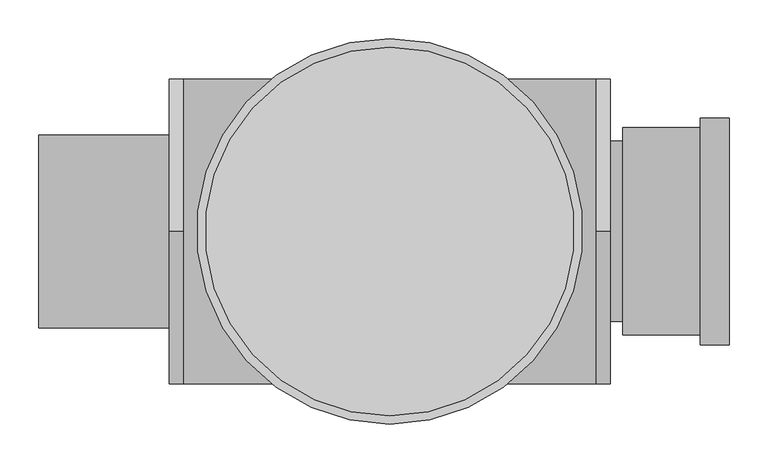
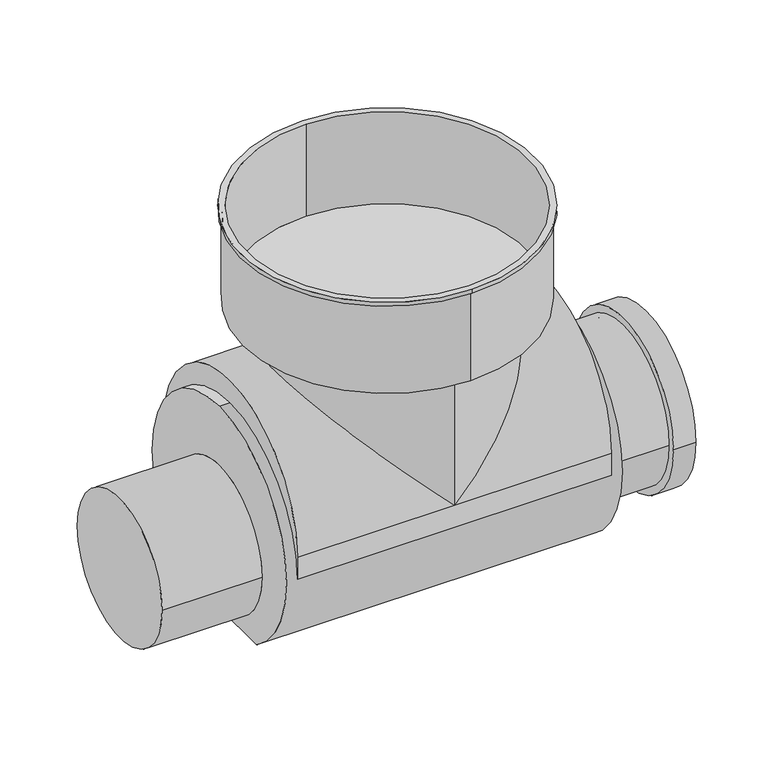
"""IFC4 building model written with IfcOpenShell, lengths in millimetres: valve geometry, Pipelife - Studnia PRO 425 - Kineta studni przelotowa GŁ 1M G1 : 425 p GŁ 250 1M G1."""

from ifc_helpers import new_model, si_unit, point, frame, frame_2d, origin, place, context, project, spatial, polyline, circle_curve, ellipse_curve, trimmed, segment, composite_curve, outline, extrude, source, transform, mapped, element, save
from ifc_brep_helpers import plane_surface, cylinder_surface, revolved_surface, advanced_brep


def valve_a0bac036(model_context):
    return source(origin(), model_context, "Body", "SolidModel", [
        extrude(outline(composite_curve([segment(trimmed(circle_curve(frame_2d((0.0, 3.0)), 147.0), [point((-147.0, 3.0))], [point((147.0, 3.0))], False, "CARTESIAN"), True, "CONTINUOUS"), segment(trimmed(circle_curve(frame_2d((0.0, 3.0)), 147.0), [point((147.0, 3.0))], [point((-147.0, 3.0))], False, "CARTESIAN"), True, "CONTINUOUS")], self_intersect=False), holes=[composite_curve([segment(trimmed(circle_curve(frame_2d((0.0, 3.0)), 126.5), [point((126.5, 3.0))], [point((-126.5, 3.0))], True, "CARTESIAN"), True, "CONTINUOUS"), segment(trimmed(circle_curve(frame_2d((0.0, 3.0)), 126.5), [point((-126.5, 3.0))], [point((126.5, 3.0))], True, "CARTESIAN"), True, "CONTINUOUS")], self_intersect=False)]), frame((402.0, 0.0, 0.0), z_axis=(1.0, 0.0, 0.0), x_axis=(0.0, 1.0, 0.0)), (0.0, 0.0, 1.0), 38.0),
        advanced_brep(
        [(0.0, 245.0, 487.0), (0.0, 245.0, 327.0), (0.0, -245.0, 327.0), (0.0, -245.0, 487.0), (0.0, 239.0, 329.0), (0.0, -239.0, 329.0), (0.0, 239.0, 494.0), (0.0, -239.0, 494.0), (0.0, 250.0, 494.0), (0.0, -250.0, 494.0), (0.0, 250.0, 487.0), (0.0, -250.0, 487.0), (0.0, -191.0, 322.0), (0.0, 191.0, 322.0), (0.0, 197.5, 322.0), (0.0, -197.5, 322.0), (0.0, 197.5, 74.5), (0.0, -197.5, 74.5), (-455.0, -125.0, 1.0), (-455.0, 125.0, 1.0), (-285.5, -125.0, 1.0), (-285.5, 125.0, 1.0), (302.0, -134.5, 3.0), (302.0, 134.5, 3.0), (302.0, 117.0, 3.0), (302.0, -117.0, 3.0), (402.0, -134.5, 3.0), (402.0, 134.5, 3.0), (402.0, -126.5, 3.0), (402.0, 126.5, 3.0), (309.0, -126.5, 3.0), (309.0, 126.5, 3.0), (285.5, -117.0, 3.0), (285.5, 117.0, 3.0), (-267.0, -197.5, 74.5), (-267.0, 197.5, 74.5), (-267.0, 197.5, 34.5), (-267.0, 0.0, 232.0), (-267.0, -197.5, 34.5), (267.0, -197.5, 74.5), (267.0, -197.5, 34.5), (267.0, 0.0, 232.0), (267.0, 197.5, 34.5), (267.0, 197.5, 74.5), (-285.5, -109.2977584, -130.0), (-285.5, 0.0, 232.0), (-285.5, 109.2977584, -130.0), (285.5, 109.2977584, -130.0), (285.5, 0.0, 232.0), (285.5, -109.2977584, -130.0)],
        [
            (0, 1),
            (1, 2, circle_curve(frame((0.0, 0.0, 327.0), z_axis=(0.0, 0.0, 1.0), x_axis=(0.0, -1.0, 0.0)), 245.0)),
            (2, 3),
            (3, 0, circle_curve(frame((0.0, 0.0, 487.0), z_axis=(0.0, 0.0, -1.0), x_axis=(0.0, -1.0, 0.0)), 245.0)),
            (0, 3, circle_curve(frame((0.0, 0.0, 487.0), z_axis=(0.0, 0.0, -1.0), x_axis=(0.0, -1.0, 0.0)), 245.0)),
            (2, 1, circle_curve(frame((0.0, 0.0, 327.0), z_axis=(0.0, 0.0, 1.0), x_axis=(0.0, -1.0, 0.0)), 245.0)),
            (4, 5, circle_curve(frame((0.0, 0.0, 329.0), z_axis=(0.0, 0.0, 1.0), x_axis=(0.0, -1.0, 0.0)), 239.0)),
            (5, 4, circle_curve(frame((0.0, 0.0, 329.0), z_axis=(0.0, 0.0, 1.0), x_axis=(0.0, -1.0, 0.0)), 239.0)),
            (4, 6),
            (6, 7, circle_curve(frame((0.0, 0.0, 494.0), z_axis=(0.0, 0.0, 1.0), x_axis=(0.0, -1.0, 0.0)), 239.0)),
            (7, 5),
            (7, 6, circle_curve(frame((0.0, 0.0, 494.0), z_axis=(0.0, 0.0, 1.0), x_axis=(0.0, -1.0, 0.0)), 239.0)),
            (8, 9, circle_curve(frame((0.0, 0.0, 494.0), z_axis=(0.0, 0.0, 1.0), x_axis=(0.0, -1.0, 0.0)), 250.0)),
            (9, 8, circle_curve(frame((0.0, 0.0, 494.0), z_axis=(0.0, 0.0, 1.0), x_axis=(0.0, -1.0, 0.0)), 250.0)),
            (10, 11, circle_curve(frame((0.0, 0.0, 487.0), z_axis=(0.0, 0.0, -1.0), x_axis=(0.0, -1.0, 0.0)), 250.0)),
            (11, 10, circle_curve(frame((0.0, 0.0, 487.0), z_axis=(0.0, 0.0, -1.0), x_axis=(0.0, -1.0, 0.0)), 250.0)),
            (8, 10),
            (11, 9),
            (2, 12),
            (12, 13, circle_curve(frame((0.0, 0.0, 322.0), z_axis=(0.0, 0.0, 1.0), x_axis=(0.0, 1.0, 0.0)), 191.0)),
            (13, 1),
            (13, 12, circle_curve(frame((0.0, 0.0, 322.0), z_axis=(0.0, 0.0, 1.0), x_axis=(0.0, -1.0, 0.0)), 191.0)),
            (14, 15, circle_curve(frame((0.0, 0.0, 322.0), z_axis=(0.0, 0.0, 1.0), x_axis=(0.0, -1.0, 0.0)), 197.5)),
            (15, 14, circle_curve(frame((0.0, 0.0, 322.0), z_axis=(0.0, 0.0, 1.0), x_axis=(0.0, -1.0, 0.0)), 197.5)),
            (14, 16),
            (16, 17, ellipse_curve(frame((0.0, 0.0, 74.5), z_axis=(0.7071067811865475, 0.0, 0.7071067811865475), x_axis=(-0.7071067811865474, 0.0, 0.7071067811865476)), 279.3071786, 197.5)),
            (17, 15),
            (17, 16, ellipse_curve(frame((0.0, 0.0, 74.5), z_axis=(-0.7071067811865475, 0.0, 0.7071067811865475), x_axis=(0.7071067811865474, 0.0, 0.7071067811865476)), 279.3071786, 197.5)),
            (18, 19, circle_curve(frame((-455.0, 0.0, 1.0), z_axis=(-1.0, 0.0, 0.0), x_axis=(0.0, 1.0, 0.0)), 125.0)),
            (19, 18, circle_curve(frame((-455.0, 0.0, 1.0), z_axis=(-1.0, 0.0, 0.0), x_axis=(0.0, 1.0, 0.0)), 125.0)),
            (18, 20),
            (20, 21, circle_curve(frame((-285.5, 0.0, 1.0), z_axis=(-1.0, 0.0, 0.0), x_axis=(0.0, 1.0, 0.0)), 125.0)),
            (21, 19),
            (21, 20, circle_curve(frame((-285.5, 0.0, 1.0), z_axis=(-1.0, 0.0, 0.0), x_axis=(0.0, 1.0, 0.0)), 125.0)),
            (22, 23, circle_curve(frame((302.0, 0.0, 3.0), z_axis=(-1.0, 0.0, 0.0), x_axis=(0.0, 1.0, 0.0)), 134.5)),
            (23, 22, circle_curve(frame((302.0, 0.0, 3.0), z_axis=(-1.0, 0.0, 0.0), x_axis=(0.0, 1.0, 0.0)), 134.5)),
            (24, 25, circle_curve(frame((302.0, 0.0, 3.0), z_axis=(1.0, 0.0, 0.0), x_axis=(0.0, 1.0, 0.0)), 117.0)),
            (25, 24, circle_curve(frame((302.0, 0.0, 3.0), z_axis=(1.0, 0.0, 0.0), x_axis=(0.0, 1.0, 0.0)), 117.0)),
            (26, 27, circle_curve(frame((402.0, 0.0, 3.0), z_axis=(1.0, 0.0, 0.0), x_axis=(0.0, 1.0, 0.0)), 134.5)),
            (27, 26, circle_curve(frame((402.0, 0.0, 3.0), z_axis=(1.0, 0.0, 0.0), x_axis=(0.0, 1.0, 0.0)), 134.5)),
            (28, 29, circle_curve(frame((402.0, 0.0, 3.0), z_axis=(-1.0, 0.0, 0.0), x_axis=(0.0, 1.0, 0.0)), 126.5)),
            (29, 28, circle_curve(frame((402.0, 0.0, 3.0), z_axis=(-1.0, 0.0, 0.0), x_axis=(0.0, 1.0, 0.0)), 126.5)),
            (22, 26),
            (27, 23),
            (30, 31, circle_curve(frame((309.0, 0.0, 3.0), z_axis=(1.0, 0.0, 0.0), x_axis=(0.0, 1.0, 0.0)), 126.5)),
            (31, 30, circle_curve(frame((309.0, 0.0, 3.0), z_axis=(1.0, 0.0, 0.0), x_axis=(0.0, 1.0, 0.0)), 126.5)),
            (31, 29),
            (28, 30),
            (32, 25),
            (24, 33),
            (33, 32, circle_curve(frame((285.5, 0.0, 3.0), z_axis=(1.0, 0.0, 0.0), x_axis=(0.0, 1.0, 0.0)), 117.0)),
            (32, 33, circle_curve(frame((285.5, 0.0, 3.0), z_axis=(1.0, 0.0, 0.0), x_axis=(0.0, 1.0, 0.0)), 117.0)),
            (34, 35, circle_curve(frame((-267.0, 0.0, 74.5), z_axis=(-1.0, 0.0, 0.0), x_axis=(0.0, 0.0, 1.0)), 197.5)),
            (35, 36),
            (36, 37, circle_curve(frame((-267.0, 0.0, 34.5), z_axis=(1.0, 0.0, 0.0), x_axis=(0.0, 0.0, 1.0)), 197.5)),
            (37, 38, circle_curve(frame((-267.0, 0.0, 34.5), z_axis=(1.0, 0.0, 0.0), x_axis=(0.0, 0.0, 1.0)), 197.5)),
            (38, 34),
            (39, 40),
            (40, 41, circle_curve(frame((267.0, 0.0, 34.5), z_axis=(-1.0, 0.0, 0.0), x_axis=(0.0, 0.0, 1.0)), 197.5)),
            (41, 42, circle_curve(frame((267.0, 0.0, 34.5), z_axis=(-1.0, 0.0, 0.0), x_axis=(0.0, 0.0, 1.0)), 197.5)),
            (42, 43),
            (43, 39, circle_curve(frame((267.0, 0.0, 74.5), z_axis=(1.0, 0.0, 0.0), x_axis=(0.0, 0.0, 1.0)), 197.5)),
            (34, 17),
            (16, 35),
            (43, 16),
            (17, 39),
            (42, 36),
            (38, 40),
            (44, 45, circle_curve(frame((-285.5, 0.0, 34.5), z_axis=(-1.0, 0.0, 0.0), x_axis=(0.0, 0.0, 1.0)), 197.5)),
            (45, 46, circle_curve(frame((-285.5, 0.0, 34.5), z_axis=(-1.0, 0.0, 0.0), x_axis=(0.0, 0.0, 1.0)), 197.5)),
            (46, 44),
            (47, 48, circle_curve(frame((285.5, 0.0, 34.5), z_axis=(1.0, 0.0, 0.0), x_axis=(0.0, 0.0, 1.0)), 197.5)),
            (48, 49, circle_curve(frame((285.5, 0.0, 34.5), z_axis=(1.0, 0.0, 0.0), x_axis=(0.0, 0.0, 1.0)), 197.5)),
            (49, 47),
            (44, 49),
            (48, 41),
            (37, 45),
            (47, 46),
        ],
        [
            cylinder_surface(frame((0.0, 0.0, 487.0), z_axis=(0.0, 0.0, 1.0), x_axis=(0.0, -1.0, 0.0)), 245.0),
            plane_surface(frame((0.0, 0.0, 329.0), z_axis=(0.0, 0.0, 1.0), x_axis=(0.0, -1.0, 0.0))),
            revolved_surface(polyline([(0.0, -239.0, 494.0), (0.0, -239.0, 329.0)]), (0.0, 0.0, 494.0), (0.0, 0.0, 1.0)),
            plane_surface(frame((0.0, 0.0, 494.0), z_axis=(0.0, 0.0, 1.0), x_axis=(0.0, -1.0, 0.0))),
            plane_surface(frame((0.0, 0.0, 487.0), z_axis=(0.0, 0.0, -1.0), x_axis=(0.0, -1.0, 0.0))),
            cylinder_surface(frame((0.0, 0.0, 494.0), z_axis=(0.0, 0.0, 1.0), x_axis=(0.0, -1.0, 0.0)), 250.0),
            revolved_surface(polyline([(0.0, -191.00000003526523, 322.0), (0.0, -245.0, 327.0)]), (0.0, 0.0, 304.3148148), (0.0, 0.0, 1.0)),
            plane_surface(frame((0.0, 0.0, 322.0), z_axis=(0.0, 0.0, 1.0), x_axis=(0.0, -1.0, 0.0))),
            cylinder_surface(frame((0.0, 0.0, 322.0), z_axis=(0.0, 0.0, 1.0), x_axis=(0.0, -1.0, 0.0)), 197.5),
            plane_surface(frame((-455.0, 0.0, 1.0), z_axis=(-1.0, 0.0, 0.0), x_axis=(0.0, 0.0, 1.0))),
            cylinder_surface(frame((-455.0, 0.0, 1.0), z_axis=(-1.0, 0.0, 0.0), x_axis=(0.0, 1.0, 0.0)), 125.0),
            plane_surface(frame((302.0, 0.0, 3.0), z_axis=(-1.0, 0.0, 0.0), x_axis=(0.0, 0.0, 1.0))),
            plane_surface(frame((402.0, 0.0, 3.0), z_axis=(1.0, 0.0, 0.0), x_axis=(0.0, 0.0, 1.0))),
            cylinder_surface(frame((302.0, 0.0, 3.0), z_axis=(-1.0, 0.0, 0.0), x_axis=(0.0, 1.0, 0.0)), 134.5),
            plane_surface(frame((309.0, 0.0, 3.0), z_axis=(1.0, 0.0, 0.0), x_axis=(0.0, 0.0, 1.0))),
            revolved_surface(polyline([(309.0, 126.5, 3.0), (402.0, 126.5, 3.0)]), (309.0, 0.0, 3.0), (-1.0, 0.0, 0.0)),
            cylinder_surface(frame((0.0, 0.0, 3.0), z_axis=(-1.0, 0.0, 0.0), x_axis=(0.0, 1.0, 0.0)), 117.0),
            plane_surface(frame((-267.0, 0.0, 74.5), z_axis=(-1.0, 0.0, 0.0), x_axis=(0.0, -1.0, 0.0))),
            plane_surface(frame((267.0, 0.0, 74.5), z_axis=(1.0, 0.0, 0.0), x_axis=(0.0, -1.0, 0.0))),
            cylinder_surface(frame((-267.0, 0.0, 74.5), z_axis=(-1.0, 0.0, 0.0), x_axis=(0.0, 0.0, 1.0)), 197.5),
            plane_surface(frame((-267.0, 197.5, 74.5), z_axis=(0.0, 1.0, 0.0), x_axis=(1.0, 0.0, 0.0))),
            plane_surface(frame((-267.0, -197.5, 34.5), z_axis=(0.0, -1.0, 0.0), x_axis=(1.0, 0.0, 0.0))),
            plane_surface(frame((-285.5, 0.0, 34.5), z_axis=(-1.0, 0.0, 0.0), x_axis=(0.0, -1.0, 0.0))),
            plane_surface(frame((285.5, 0.0, 34.5), z_axis=(1.0, 0.0, 0.0), x_axis=(0.0, -1.0, 0.0))),
            cylinder_surface(frame((-285.5, 0.0, 34.5), z_axis=(-1.0, 0.0, 0.0), x_axis=(0.0, 0.0, 1.0)), 197.5),
            plane_surface(frame((302.0, -194.5, -130.0), z_axis=(0.0, 0.0, -1.0), x_axis=(0.0, 1.0, 0.0))),
        ],
        [
            (0, [[1, 2, 3, 4]]),
            (0, [[-1, 5, -3, 6]]),
            (1, [[7, 8]]),
            (2, [[-7, 9, 10, 11]]),
            (2, [[-8, -11, 12, -9]]),
            (3, [[13, 14], [-10, -12]]),
            (4, [[15, 16], [-4, -5]]),
            (5, [[-13, 17, -16, 18]]),
            (5, [[-14, -18, -15, -17]]),
            (6, [[19, 20, 21, -6]]),
            (6, [[-19, -2, -21, 22]]),
            (7, [[23, 24], [-20, -22]]),
            (8, [[-23, 25, 26, 27]]),
            (8, [[-24, -27, 28, -25]]),
            (9, [[29, 30]]),
            (10, [[-29, 31, 32, 33]]),
            (10, [[-30, -33, 34, -31]]),
            (11, [[35, 36], [37, 38]]),
            (12, [[39, 40], [41, 42]]),
            (13, [[-35, 43, -40, 44]]),
            (13, [[-36, -44, -39, -43]]),
            (14, [[45, 46]]),
            (15, [[-46, 47, -41, 48]]),
            (15, [[-45, -48, -42, -47]]),
            (16, [[49, -37, 50, 51]]),
            (16, [[-49, 52, -50, -38]]),
            (17, [[53, 54, 55, 56, 57]]),
            (18, [[58, 59, 60, 61, 62]]),
            (19, [[-53, 63, -26, 64]]),
            (19, [[-62, 65, -28, 66]]),
            (20, [[-54, -64, -65, -61, 67]]),
            (21, [[-57, 68, -58, -66, -63]]),
            (22, [[69, 70, 71], [-32, -34]]),
            (23, [[72, 73, 74], [-51, -52]]),
            (24, [[-69, 75, -73, 76, -59, -68, -56, 77]]),
            (24, [[-70, -77, -55, -67, -60, -76, -72, 78]]),
            (25, [[-71, -78, -74, -75]]),
        ],
    ),
    ])


if __name__ == "__main__":
    model = new_model("IFC4")
    model_context = context("Model", 3, world=origin())
    ifc_project = project(units=[si_unit("LENGTHUNIT", "METRE", prefix="MILLI")], contexts=[model_context])
    site = spatial("IfcSite", under=ifc_project)
    building = spatial("IfcBuilding", under=site)
    placement = place(None, origin())
    valve_shape = valve_a0bac036(model_context)
    element("IfcValve", 1, ObjectType="Pipelife - Studnia PRO 425 - Kineta studni przelotowa GŁ 1M G1 : 425 p GŁ 250 1M G1", at=placement, inside=building, context=model_context, shape_type="MappedRepresentation", body=[
        mapped(valve_shape, transform((0.0, 0.0, 0.0), x_axis=(1.0, 0.0, 0.0), y_axis=(0.0, 1.0, 0.0), z_axis=(0.0, 0.0, 1.0))),
    ])
    save(model, "model.ifc")
